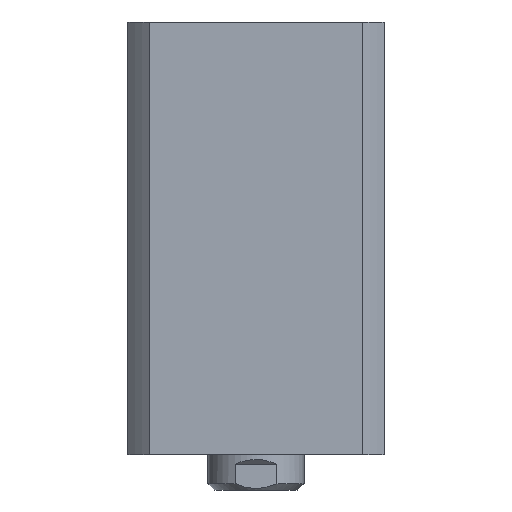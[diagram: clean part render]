
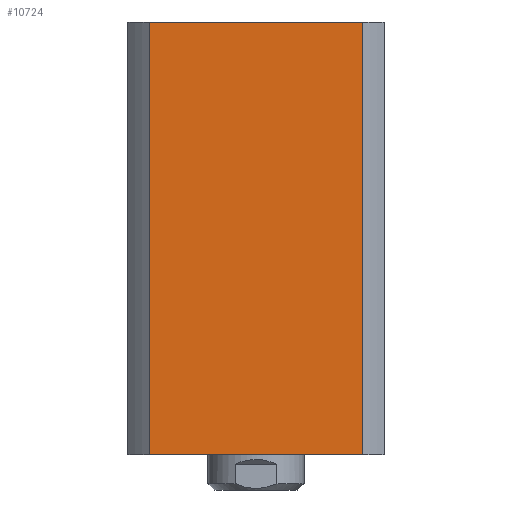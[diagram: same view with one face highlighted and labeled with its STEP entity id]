
A CAD part, left-side view. The second image highlights one B-rep face of the part: STEP entity #10724.
In plain terms, the highlighted planar face has unit normal (-1, 0, 0).
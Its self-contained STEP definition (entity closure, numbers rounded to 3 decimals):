
#434 = LINE ( 'NONE', #12280, #12253 ) ;
#752 = VERTEX_POINT ( 'NONE', #8079 ) ;
#870 = ORIENTED_EDGE ( 'NONE', *, *, #9217, .T. ) ;
#1135 = LINE ( 'NONE', #7146, #8916 ) ;
#1448 = DIRECTION ( 'NONE',  ( 0., 0., -1. ) ) ;
#1491 = CARTESIAN_POINT ( 'NONE',  ( -40., 33.226, 67.5 ) ) ;
#2494 = CARTESIAN_POINT ( 'NONE',  ( -40., 33.226, -67.5 ) ) ;
#3954 = DIRECTION ( 'NONE',  ( 0., -1., 0. ) ) ;
#4581 = DIRECTION ( 'NONE',  ( 0., 1., 0. ) ) ;
#4847 = DIRECTION ( 'NONE',  ( 0., -1., 0. ) ) ;
#4929 = CARTESIAN_POINT ( 'NONE',  ( -40., -33.226, 67.5 ) ) ;
#5025 = LINE ( 'NONE', #6378, #10759 ) ;
#5086 = AXIS2_PLACEMENT_3D ( 'NONE', #1491, #7932, #4581 ) ;
#6376 = VECTOR ( 'NONE', #1448, 1000. ) ;
#6378 = CARTESIAN_POINT ( 'NONE',  ( -40., -33.226, 67.5 ) ) ;
#6930 = PLANE ( 'NONE',  #5086 ) ;
#6942 = ORIENTED_EDGE ( 'NONE', *, *, #8987, .T. ) ;
#7038 = FACE_OUTER_BOUND ( 'NONE', #11842, .T. ) ;
#7146 = CARTESIAN_POINT ( 'NONE',  ( -40., 33.226, -67.5 ) ) ;
#7217 = VERTEX_POINT ( 'NONE', #4929 ) ;
#7932 = DIRECTION ( 'NONE',  ( 1., 0., 0. ) ) ;
#7942 = CARTESIAN_POINT ( 'NONE',  ( -40., 33.226, 67.5 ) ) ;
#8061 = VERTEX_POINT ( 'NONE', #2494 ) ;
#8079 = CARTESIAN_POINT ( 'NONE',  ( -40., -33.226, -67.5 ) ) ;
#8198 = CARTESIAN_POINT ( 'NONE',  ( -40., 33.226, 67.5 ) ) ;
#8476 = DIRECTION ( 'NONE',  ( 0., 0., -1. ) ) ;
#8808 = VERTEX_POINT ( 'NONE', #8198 ) ;
#8916 = VECTOR ( 'NONE', #3954, 1000. ) ;
#8987 = EDGE_CURVE ( 'NONE', #8061, #752, #1135, .T. ) ;
#9217 = EDGE_CURVE ( 'NONE', #8808, #8061, #12109, .T. ) ;
#9319 = ORIENTED_EDGE ( 'NONE', *, *, #10526, .F. ) ;
#10526 = EDGE_CURVE ( 'NONE', #7217, #752, #5025, .T. ) ;
#10550 = ORIENTED_EDGE ( 'NONE', *, *, #11586, .F. ) ;
#10724 = ADVANCED_FACE ( 'NONE', ( #7038 ), #6930, .F. ) ;
#10759 = VECTOR ( 'NONE', #8476, 1000. ) ;
#11586 = EDGE_CURVE ( 'NONE', #8808, #7217, #434, .T. ) ;
#11842 = EDGE_LOOP ( 'NONE', ( #6942, #9319, #10550, #870 ) ) ;
#12109 = LINE ( 'NONE', #7942, #6376 ) ;
#12253 = VECTOR ( 'NONE', #4847, 1000. ) ;
#12280 = CARTESIAN_POINT ( 'NONE',  ( -40., 33.226, 67.5 ) ) ;
